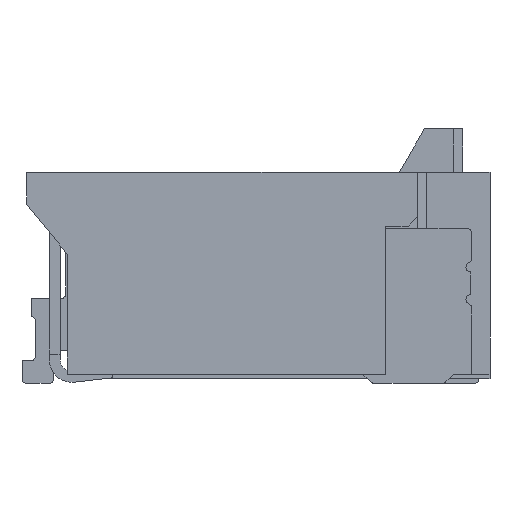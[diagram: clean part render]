
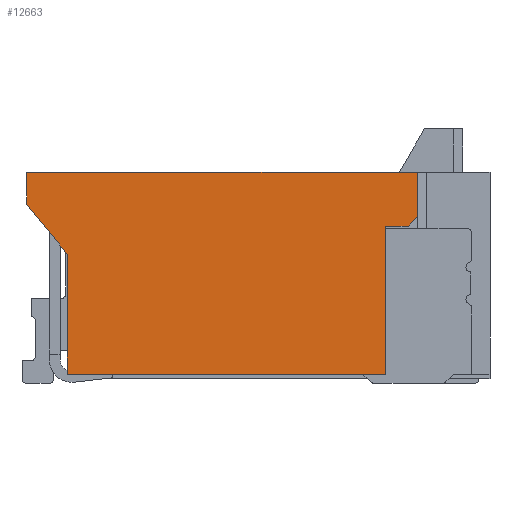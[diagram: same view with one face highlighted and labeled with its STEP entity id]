
A CAD part, front view. The second image highlights one B-rep face of the part: STEP entity #12663.
In plain terms, the highlighted planar face has unit normal (0, -1, 0).
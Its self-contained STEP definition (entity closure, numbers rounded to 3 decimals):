
#125 = CARTESIAN_POINT ( 'NONE',  ( 5.104, -6.296, 4.054 ) ) ;
#923 = EDGE_CURVE ( 'NONE', #33201, #16588, #19238, .T. ) ;
#1336 = CARTESIAN_POINT ( 'NONE',  ( 1.604, -6.296, 4.644 ) ) ;
#1749 = VECTOR ( 'NONE', #22087, 1000. ) ;
#2289 = CARTESIAN_POINT ( 'NONE',  ( 1.604, -6.296, 2.374 ) ) ;
#2658 = DIRECTION ( 'NONE',  ( 0., 0., -1. ) ) ;
#3370 = AXIS2_PLACEMENT_3D ( 'NONE', #17332, #23201, #26034 ) ;
#3530 = DIRECTION ( 'NONE',  ( 1., 0., 0. ) ) ;
#3803 = VERTEX_POINT ( 'NONE', #17466 ) ;
#3973 = VECTOR ( 'NONE', #18992, 1000. ) ;
#5683 = CARTESIAN_POINT ( 'NONE',  ( 1.604, -6.296, 2.424 ) ) ;
#5843 = CARTESIAN_POINT ( 'NONE',  ( 1.154, -6.296, 4.294 ) ) ;
#7056 = VECTOR ( 'NONE', #3530, 1000. ) ;
#7117 = VERTEX_POINT ( 'NONE', #32359 ) ;
#7292 = ORIENTED_EDGE ( 'NONE', *, *, #29831, .T. ) ;
#7722 = LINE ( 'NONE', #34268, #9765 ) ;
#8111 = CARTESIAN_POINT ( 'NONE',  ( 2.639, -6.296, 1.339 ) ) ;
#8145 = VECTOR ( 'NONE', #17750, 1000. ) ;
#8352 = VERTEX_POINT ( 'NONE', #15674 ) ;
#9138 = FACE_OUTER_BOUND ( 'NONE', #22667, .T. ) ;
#9765 = VECTOR ( 'NONE', #31601, 1000. ) ;
#9792 = ORIENTED_EDGE ( 'NONE', *, *, #16299, .T. ) ;
#10157 = VERTEX_POINT ( 'NONE', #15062 ) ;
#10969 = CARTESIAN_POINT ( 'NONE',  ( 5.454, -6.296, 4.054 ) ) ;
#11930 = EDGE_CURVE ( 'NONE', #8352, #33287, #13465, .T. ) ;
#12628 = CARTESIAN_POINT ( 'NONE',  ( 1.604, -6.296, 2.424 ) ) ;
#12663 = ADVANCED_FACE ( 'NONE', ( #9138 ), #33872, .T. ) ;
#13350 = CARTESIAN_POINT ( 'NONE',  ( 1.154, -6.296, 4.294 ) ) ;
#13465 = LINE ( 'NONE', #10969, #15825 ) ;
#14757 = ORIENTED_EDGE ( 'NONE', *, *, #28856, .T. ) ;
#14836 = VECTOR ( 'NONE', #17587, 1000. ) ;
#15062 = CARTESIAN_POINT ( 'NONE',  ( 1.154, -6.296, 4.644 ) ) ;
#15143 = ORIENTED_EDGE ( 'NONE', *, *, #15438, .F. ) ;
#15438 = EDGE_CURVE ( 'NONE', #33287, #16588, #7722, .T. ) ;
#15674 = CARTESIAN_POINT ( 'NONE',  ( 5.354, -6.296, 4.054 ) ) ;
#15825 = VECTOR ( 'NONE', #31983, 1000. ) ;
#16299 = EDGE_CURVE ( 'NONE', #33420, #3803, #24581, .T. ) ;
#16588 = VERTEX_POINT ( 'NONE', #20793 ) ;
#17332 = CARTESIAN_POINT ( 'NONE',  ( 1.604, -6.296, 2.374 ) ) ;
#17466 = CARTESIAN_POINT ( 'NONE',  ( 1.604, -6.296, 3.744 ) ) ;
#17587 = DIRECTION ( 'NONE',  ( -1., 0., 0. ) ) ;
#17750 = DIRECTION ( 'NONE',  ( 0., 0., -1. ) ) ;
#17924 = CARTESIAN_POINT ( 'NONE',  ( 1.154, -6.296, 2.374 ) ) ;
#18107 = LINE ( 'NONE', #1336, #14836 ) ;
#18992 = DIRECTION ( 'NONE',  ( 0.707, 0., 0.707 ) ) ;
#19238 = LINE ( 'NONE', #5683, #7056 ) ;
#19919 = ORIENTED_EDGE ( 'NONE', *, *, #25374, .T. ) ;
#19949 = ORIENTED_EDGE ( 'NONE', *, *, #32280, .T. ) ;
#20793 = CARTESIAN_POINT ( 'NONE',  ( 5.104, -6.296, 2.424 ) ) ;
#22087 = DIRECTION ( 'NONE',  ( 0.633, 0., -0.774 ) ) ;
#22667 = EDGE_LOOP ( 'NONE', ( #33972, #14757, #19919, #7292, #19949, #9792, #31059, #35048, #15143 ) ) ;
#23201 = DIRECTION ( 'NONE',  ( 0., -1., 0. ) ) ;
#24455 = VERTEX_POINT ( 'NONE', #26384 ) ;
#24581 = LINE ( 'NONE', #13350, #1749 ) ;
#25374 = EDGE_CURVE ( 'NONE', #24455, #7117, #35202, .T. ) ;
#26034 = DIRECTION ( 'NONE',  ( 0., 0., -1. ) ) ;
#26384 = CARTESIAN_POINT ( 'NONE',  ( 5.454, -6.296, 4.154 ) ) ;
#26647 = DIRECTION ( 'NONE',  ( 0., 0., 1. ) ) ;
#26805 = VECTOR ( 'NONE', #2658, 1000. ) ;
#27086 = LINE ( 'NONE', #2289, #26805 ) ;
#28856 = EDGE_CURVE ( 'NONE', #8352, #24455, #35193, .T. ) ;
#29497 = CARTESIAN_POINT ( 'NONE',  ( 5.454, -6.296, 2.374 ) ) ;
#29831 = EDGE_CURVE ( 'NONE', #7117, #10157, #18107, .T. ) ;
#30529 = EDGE_CURVE ( 'NONE', #3803, #33201, #27086, .T. ) ;
#30620 = VECTOR ( 'NONE', #26647, 1000. ) ;
#31059 = ORIENTED_EDGE ( 'NONE', *, *, #30529, .T. ) ;
#31601 = DIRECTION ( 'NONE',  ( 0., 0., -1. ) ) ;
#31983 = DIRECTION ( 'NONE',  ( -1., 0., 0. ) ) ;
#32280 = EDGE_CURVE ( 'NONE', #10157, #33420, #34294, .T. ) ;
#32359 = CARTESIAN_POINT ( 'NONE',  ( 5.454, -6.296, 4.644 ) ) ;
#33201 = VERTEX_POINT ( 'NONE', #12628 ) ;
#33287 = VERTEX_POINT ( 'NONE', #125 ) ;
#33420 = VERTEX_POINT ( 'NONE', #5843 ) ;
#33872 = PLANE ( 'NONE',  #3370 ) ;
#33972 = ORIENTED_EDGE ( 'NONE', *, *, #11930, .F. ) ;
#34268 = CARTESIAN_POINT ( 'NONE',  ( 5.104, -6.296, 2.374 ) ) ;
#34294 = LINE ( 'NONE', #17924, #8145 ) ;
#35048 = ORIENTED_EDGE ( 'NONE', *, *, #923, .T. ) ;
#35193 = LINE ( 'NONE', #8111, #3973 ) ;
#35202 = LINE ( 'NONE', #29497, #30620 ) ;
